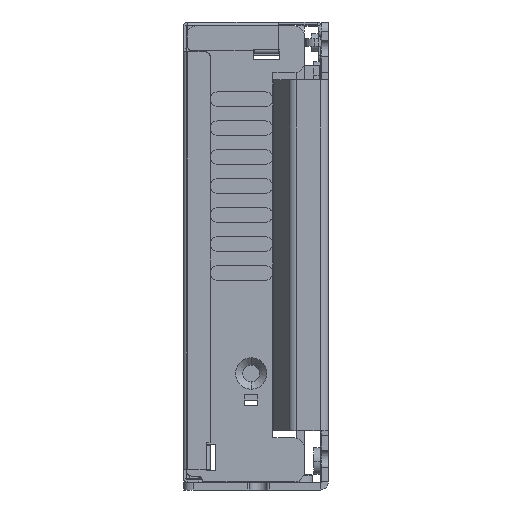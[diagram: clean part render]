
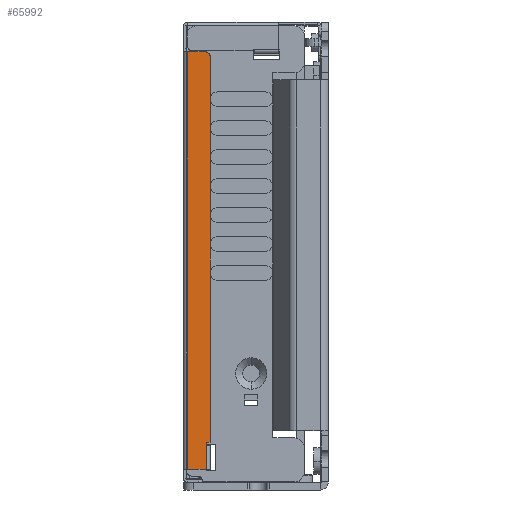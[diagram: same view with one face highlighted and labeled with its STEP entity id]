
A CAD part, left-side view. The second image highlights one B-rep face of the part: STEP entity #65992.
In plain terms, the highlighted planar face has unit normal (-1, 0, 0).
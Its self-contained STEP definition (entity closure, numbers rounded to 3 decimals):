
#30741=DIRECTION('',(0.,0.,-1.));
#30742=VECTOR('',#30741,86.5);
#30743=CARTESIAN_POINT('',(-74.25,29.2,42.3));
#30744=LINE('',#30743,#30742);
#30759=CARTESIAN_POINT('',(-74.25,25.5,41.3));
#30760=DIRECTION('',(1.,0.,0.));
#30761=DIRECTION('',(0.,0.,1.));
#30762=AXIS2_PLACEMENT_3D('',#30759,#30760,#30761);
#30764=DIRECTION('',(0.,0.,-1.));
#30765=VECTOR('',#30764,79.9);
#30766=CARTESIAN_POINT('',(-74.25,24.5,41.3));
#30767=LINE('',#30766,#30765);
#30768=DIRECTION('',(0.,0.,-1.));
#30769=VECTOR('',#30768,0.6);
#30770=CARTESIAN_POINT('',(-74.25,25.3,-38.6));
#30771=LINE('',#30770,#30769);
#30772=DIRECTION('',(0.,1.,0.));
#30773=VECTOR('',#30772,3.9);
#30774=CARTESIAN_POINT('',(-74.25,25.3,-44.2));
#30775=LINE('',#30774,#30773);
#30776=DIRECTION('',(0.,-1.,0.));
#30777=VECTOR('',#30776,3.7);
#30778=CARTESIAN_POINT('',(-74.25,29.2,42.3));
#30779=LINE('',#30778,#30777);
#30819=DIRECTION('',(0.,-1.,0.));
#30820=VECTOR('',#30819,0.8);
#30821=CARTESIAN_POINT('',(-74.25,25.3,-38.6));
#30822=LINE('',#30821,#30820);
#30861=DIRECTION('',(0.,0.,1.));
#30862=VECTOR('',#30861,5.);
#30863=CARTESIAN_POINT('',(-74.25,25.3,-44.2));
#30864=LINE('',#30863,#30862);
#34873=CARTESIAN_POINT('',(-74.25,29.2,42.3));
#34874=CARTESIAN_POINT('',(-74.25,29.2,-44.2));
#34875=VERTEX_POINT('',#34873);
#34876=VERTEX_POINT('',#34874);
#34879=CARTESIAN_POINT('',(-74.25,25.5,42.3));
#34880=CARTESIAN_POINT('',(-74.25,24.5,41.3));
#34881=VERTEX_POINT('',#34879);
#34882=VERTEX_POINT('',#34880);
#34883=CARTESIAN_POINT('',(-74.25,24.5,-38.6));
#34884=VERTEX_POINT('',#34883);
#34885=CARTESIAN_POINT('',(-74.25,25.3,-38.6));
#34886=VERTEX_POINT('',#34885);
#34887=CARTESIAN_POINT('',(-74.25,25.3,-39.2));
#34888=VERTEX_POINT('',#34887);
#34889=CARTESIAN_POINT('',(-74.25,25.3,-44.2));
#34890=VERTEX_POINT('',#34889);
#65970=CARTESIAN_POINT('',(-74.25,30.,-46.2));
#65971=DIRECTION('',(-1.,0.,0.));
#65972=DIRECTION('',(0.,0.,-1.));
#65973=AXIS2_PLACEMENT_3D('',#65970,#65971,#65972);
#65974=PLANE('',#65973);
#65976=ORIENTED_EDGE('',*,*,#65975,.T.);
#65978=ORIENTED_EDGE('',*,*,#65977,.T.);
#65980=ORIENTED_EDGE('',*,*,#65979,.F.);
#65982=ORIENTED_EDGE('',*,*,#65981,.T.);
#65984=ORIENTED_EDGE('',*,*,#65983,.F.);
#65986=ORIENTED_EDGE('',*,*,#65985,.T.);
#65987=ORIENTED_EDGE('',*,*,#65949,.F.);
#65989=ORIENTED_EDGE('',*,*,#65988,.T.);
#65990=EDGE_LOOP('',(#65976,#65978,#65980,#65982,#65984,#65986,#65987,#65989));
#65991=FACE_OUTER_BOUND('',#65990,.F.);
#30763=CIRCLE('',#30762,1.);
#65949=EDGE_CURVE('',#34875,#34876,#30744,.T.);
#65975=EDGE_CURVE('',#34881,#34882,#30763,.T.);
#65977=EDGE_CURVE('',#34882,#34884,#30767,.T.);
#65979=EDGE_CURVE('',#34886,#34884,#30822,.T.);
#65981=EDGE_CURVE('',#34886,#34888,#30771,.T.);
#65983=EDGE_CURVE('',#34890,#34888,#30864,.T.);
#65985=EDGE_CURVE('',#34890,#34876,#30775,.T.);
#65988=EDGE_CURVE('',#34875,#34881,#30779,.T.);
#65992=ADVANCED_FACE('',(#65991),#65974,.T.);
